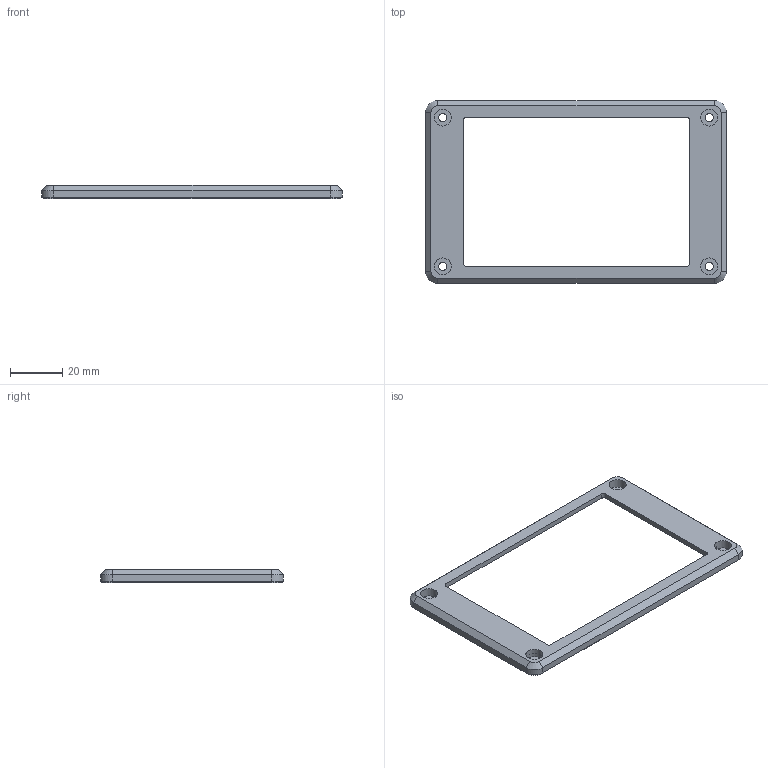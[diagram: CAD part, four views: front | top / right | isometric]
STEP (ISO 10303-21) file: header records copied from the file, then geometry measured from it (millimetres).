
FILE_DESCRIPTION(('FreeCAD Model'),'2;1');
FILE_NAME('Open CASCADE Shape Model','2024-11-17T12:06:19',(''),(''), 'Open CASCADE STEP processor 7.6','FreeCAD','Unknown');
FILE_SCHEMA(('AUTOMOTIVE_DESIGN { 1 0 10303 214 1 1 1 1 }'));
Length unit declared in the file: millimetre
Products named in the file (1): MKS TS35 Case Top_v2
Bounding box: 115 x 70 x 5 mm (x, y, z)
Volume: 7773.4 mm3; surface area: 9515.2 mm2
Topology: 1 solids, 1 shells, 72 faces, 172 edges, 112 vertices
Faces by surface type: plane 40, cylinder 28, cone 4
Full cylindrical faces by diameter (mm): 3.1 x4, 3.5 x4, 6.5 x4
Entity records: 2134 total; most frequent: DIRECTION 378, CARTESIAN_POINT 357, ORIENTED_EDGE 344, EDGE_CURVE 172, AXIS2_PLACEMENT_3D 133, VERTEX_POINT 112, LINE 112, VECTOR 112
